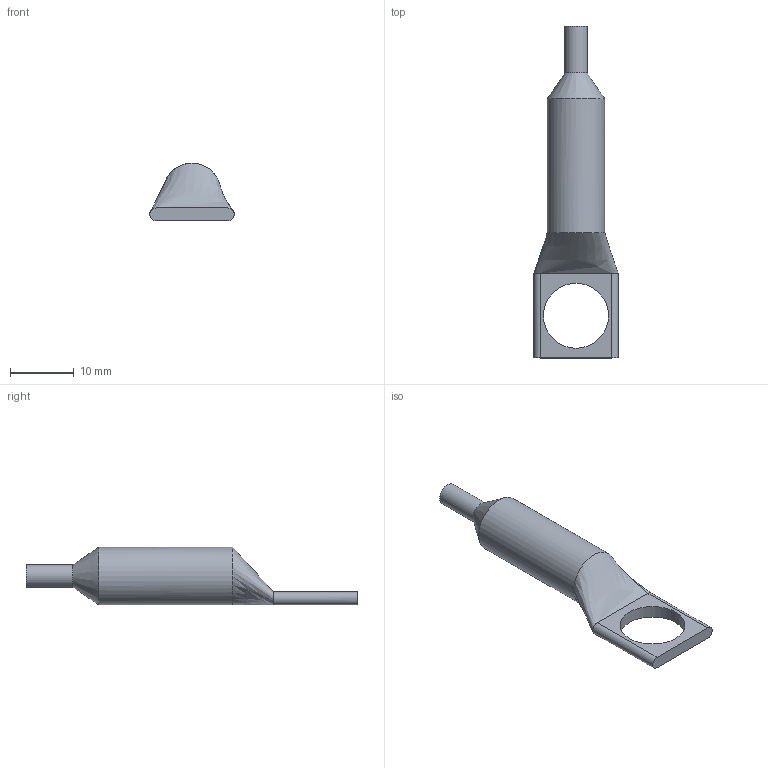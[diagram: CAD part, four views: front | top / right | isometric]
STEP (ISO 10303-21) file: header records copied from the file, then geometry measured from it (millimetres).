
FILE_DESCRIPTION(/* description */ ('Unknown'),/* implementation_level */ '2;1');
FILE_NAME(/* name */ 'RTS',/* time_stamp */ '2017-01-20T14:40:26-05:00',/* author */ ('Unknown'),/* organization */ ('Unknown'),/* preprocessor_version */ 'ST-DEVELOPER v16.7',/* originating_system */ 'DEX',/* authorisation */ $);
FILE_SCHEMA (('AUTOMOTIVE_DESIGN {1 0 10303 214 3 1 1}'));
Length unit declared in the file: millimetre
Products named in the file (1): RTS
Bounding box: 13.21 x 51.89 x 9 mm (x, y, z)
Volume: 2012.2 mm3; surface area: 1285.2 mm2
Topology: 1 solids, 1 shells, 11 faces, 28 edges, 19 vertices
Faces by surface type: cylinder 5, plane 4, bspline 1, cone 1
Full cylindrical faces by diameter (mm): 3.5 x1, 9 x1, 10.16 x1
Entity records: 613 total; most frequent: CARTESIAN_POINT 273, DIRECTION 48, ORIENTED_EDGE 42, EDGE_CURVE 21, AXIS2_PLACEMENT_3D 21, EDGE_LOOP 18, FACE_BOUND 18, VERTEX_POINT 17
